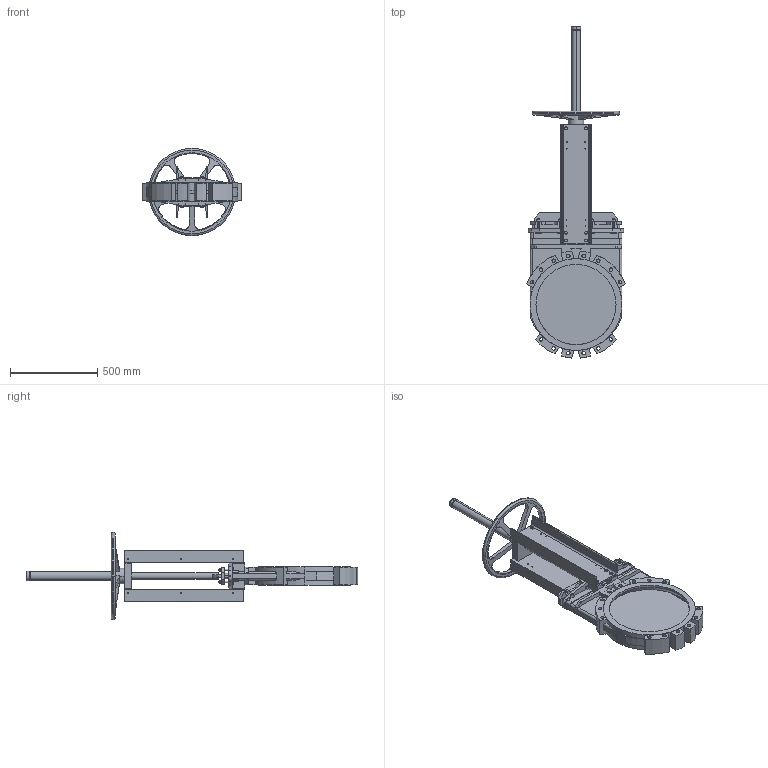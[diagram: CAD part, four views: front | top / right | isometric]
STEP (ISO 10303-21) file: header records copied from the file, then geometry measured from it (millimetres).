
FILE_DESCRIPTION (( 'STEP AP203' ), '1' );
FILE_NAME ('VG DN450.STEP', '2010-01-29T00:58:53', ( 'farex' ), ( '' ), 'SwSTEP 2.0', 'SolidWorks 2009', '' );
FILE_SCHEMA (( 'CONFIG_CONTROL_DESIGN' ));
Length unit declared in the file: millimetre
Products named in the file (1): VG DN450
Bounding box: 567 x 1904.55 x 500 mm (x, y, z)
Volume: 26477864.8 mm3; surface area: 2963638.1 mm2
Topology: 1 solids, 3 shells, 1100 faces, 2909 edges, 1888 vertices
Faces by surface type: plane 597, cylinder 326, cone 115, bspline 34, torus 28
Entity records: 37932 total; most frequent: CARTESIAN_POINT 10313, ORIENTED_EDGE 5818, DIRECTION 5630, EDGE_CURVE 2909, AXIS2_PLACEMENT_3D 1966, VERTEX_POINT 1888, VECTOR 1698, LINE 1698
